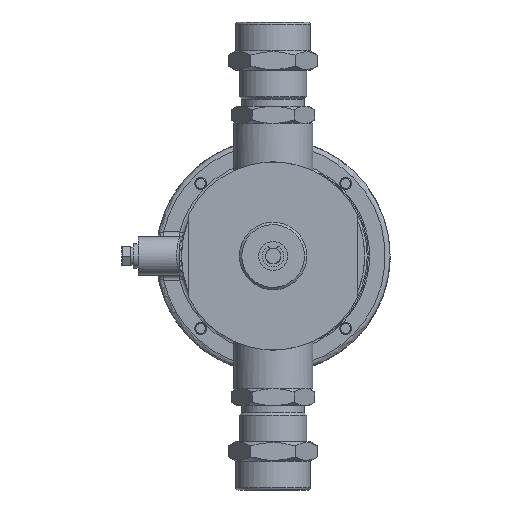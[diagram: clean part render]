
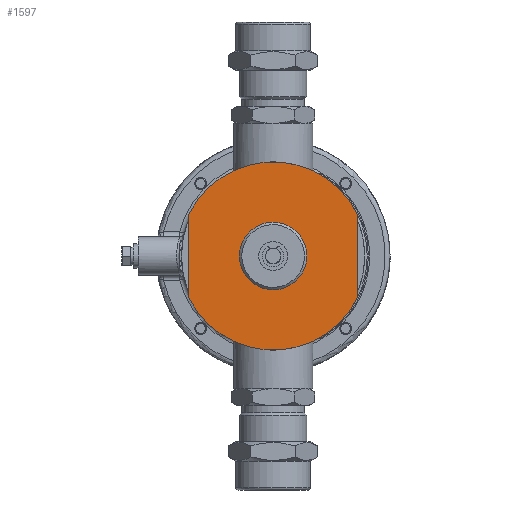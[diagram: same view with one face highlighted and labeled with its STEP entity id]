
A CAD part, front view. The second image highlights one B-rep face of the part: STEP entity #1597.
In plain terms, the highlighted planar face has unit normal (0, -1, 0).
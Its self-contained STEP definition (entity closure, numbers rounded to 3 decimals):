
#1597=ADVANCED_FACE('',(#18068,#18070),#18072,.T.);
#18068=FACE_BOUND('',#18069,.T.);
#18069=EDGE_LOOP('',(#28402));
#18070=FACE_OUTER_BOUND('',#18071,.T.);
#18071=EDGE_LOOP('',(#28403,#28404,#28405,#28406));
#18072=PLANE('',#18073);
#18073=AXIS2_PLACEMENT_3D('',#18074,#18075,#18076);
#18074=CARTESIAN_POINT('',(0.,-24.5,0.));
#18075=DIRECTION('',(-0.,-1.,-0.));
#18076=DIRECTION('',(-1.,0.,0.));
#28402=ORIENTED_EDGE('',*,*,#37252,.T.);
#28403=ORIENTED_EDGE('',*,*,#37237,.T.);
#28404=ORIENTED_EDGE('',*,*,#37244,.F.);
#28405=ORIENTED_EDGE('',*,*,#37242,.T.);
#28406=ORIENTED_EDGE('',*,*,#37239,.F.);
#37237=EDGE_CURVE('',#44423,#44421,#44424,.F.);
#37239=EDGE_CURVE('',#44423,#44426,#44427,.T.);
#37242=EDGE_CURVE('',#44431,#44426,#44432,.F.);
#37244=EDGE_CURVE('',#44431,#44421,#44434,.T.);
#37252=EDGE_CURVE('',#44448,#44448,#44449,.T.);
#44421=VERTEX_POINT('',#68553);
#44423=VERTEX_POINT('',#68557);
#44424=LINE('',#68558,#68559);
#44426=VERTEX_POINT('',#68564);
#44427=CIRCLE('',#68565,39.);
#44431=VERTEX_POINT('',#68577);
#44432=LINE('',#68578,#68579);
#44434=CIRCLE('',#68584,39.);
#44448=VERTEX_POINT('',#68621);
#44449=CIRCLE('',#68622,7.);
#68553=CARTESIAN_POINT('',(-35.,-24.5,-17.205));
#68557=CARTESIAN_POINT('',(-35.,-24.5,17.205));
#68558=CARTESIAN_POINT('',(-35.,-24.5,-17.205));
#68559=VECTOR('',#68560,1.);
#68560=DIRECTION('',(0.,0.,1.));
#68564=CARTESIAN_POINT('',(35.,-24.5,17.205));
#68565=AXIS2_PLACEMENT_3D('',#68566,#68567,#68568);
#68566=CARTESIAN_POINT('',(0.,-24.5,0.));
#68567=DIRECTION('',(0.,1.,0.));
#68568=DIRECTION('',(-0.897,0.,0.441));
#68577=CARTESIAN_POINT('',(35.,-24.5,-17.205));
#68578=CARTESIAN_POINT('',(35.,-24.5,17.205));
#68579=VECTOR('',#68580,1.);
#68580=DIRECTION('',(0.,0.,-1.));
#68584=AXIS2_PLACEMENT_3D('',#68585,#68586,#68587);
#68585=CARTESIAN_POINT('',(0.,-24.5,0.));
#68586=DIRECTION('',(0.,1.,0.));
#68587=DIRECTION('',(0.897,0.,-0.441));
#68621=CARTESIAN_POINT('',(-7.,-24.5,0.));
#68622=AXIS2_PLACEMENT_3D('',#68623,#68624,#68625);
#68623=CARTESIAN_POINT('',(0.,-24.5,0.));
#68624=DIRECTION('',(0.,1.,0.));
#68625=DIRECTION('',(-1.,0.,0.));
